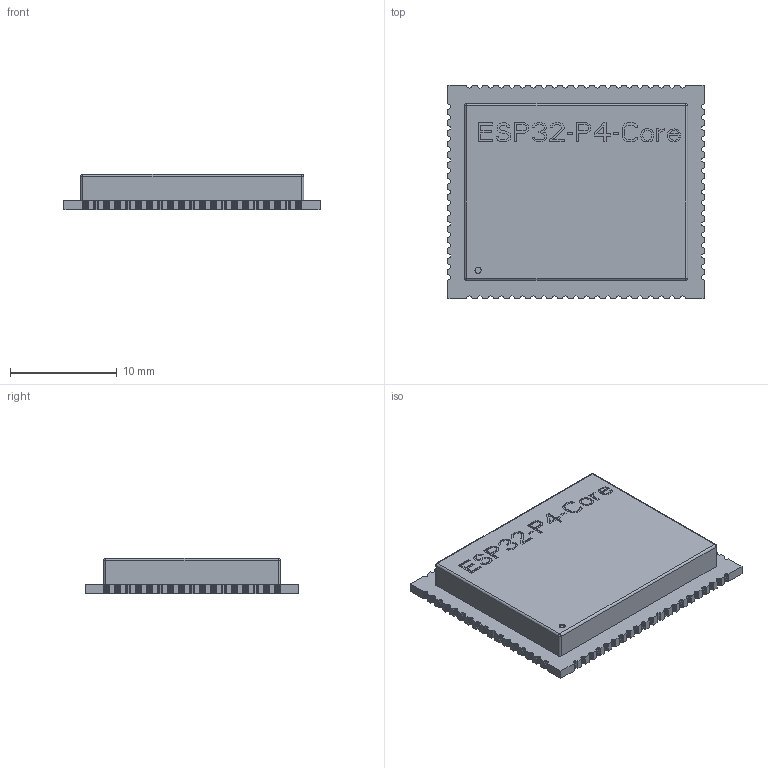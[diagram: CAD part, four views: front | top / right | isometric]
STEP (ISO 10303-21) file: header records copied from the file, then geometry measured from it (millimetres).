
FILE_DESCRIPTION((''),'2;1');
FILE_NAME('ESP32-P4-CORE_ASM','2026-11-02T16:49:19',('xiaojisheng'),(''),'CREO PARAMETRIC BY PTC INC, 2021063','CREO PARAMETRIC BY PTC INC, 2021063','');
FILE_SCHEMA(('CONFIG_CONTROL_DESIGN','SHAPE_APPEARANCE_LAYERS_GROUPS'));
Products named in the file (84): BOARD; EXTRUDED-53972; 899454432_ASM; Y2_ASM; EXTRUDED-54367; 739255696_ASM; Y1_ASM; EXTRUDED-54762; 1838497840_ASM; U8_ASM; EXTRUDED-55181; 572976784_ASM; EXTRUDED-55578; 1868644112_ASM; U7_ASM; USER_LIBRARY-RES_0603-0201_1; USER_LIBRARY-RES_0603-0201_2; USER_LIBRARY-RES_0603-0201_3; USER_LIBRARY-RES_0603-0201_4; USER_LIBRARY-RES_0603-0201_ASM; R46_ASM; R45_ASM; R43_ASM; R42_ASM; R35_ASM; R32_ASM; R31_ASM; R1_ASM; EXTRUDED-64287; 572976400_ASM; L2_ASM; USER_LIBRARY-0201_0603M__CAP_1; USER_LIBRARY-0201_0603M__CAP_2; USER_LIBRARY-0201_0603M__CAP_3; USER_LIBRARY-0201_0603M__CAP_ASM; C64_ASM; _1_10001; 3_1_A; 2_100; C_0402-672_AF0_ASM_ASM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
Assembly tree (133 placements, depth 7):
  ESP32-P4-CORE_ASM
    PCB_ASM
      BOARD
      Y2_ASM
        899454432_ASM
          EXTRUDED-53972
      Y1_ASM
        739255696_ASM
          EXTRUDED-54367
      U8_ASM
        1838497840_ASM
          EXTRUDED-54762
      U7_ASM
        572976784_ASM  x6
          EXTRUDED-55181
        1868644112_ASM
          EXTRUDED-55578
      R46_ASM
        USER_LIBRARY-RES_0603-0201_ASM
          USER_LIBRARY-RES_0603-0201_1
          USER_LIBRARY-RES_0603-0201_2
          USER_LIBRARY-RES_0603-0201_3
          USER_LIBRARY-RES_0603-0201_4
      R45_ASM
        USER_LIBRARY-RES_0603-0201_ASM
          USER_LIBRARY-RES_0603-0201_1
          USER_LIBRARY-RES_0603-0201_2
          USER_LIBRARY-RES_0603-0201_3
          USER_LIBRARY-RES_0603-0201_4
      R43_ASM
        USER_LIBRARY-RES_0603-0201_ASM
          USER_LIBRARY-RES_0603-0201_1
          USER_LIBRARY-RES_0603-0201_2
          USER_LIBRARY-RES_0603-0201_3
          USER_LIBRARY-RES_0603-0201_4
      R42_ASM
        USER_LIBRARY-RES_0603-0201_ASM
          USER_LIBRARY-RES_0603-0201_1
          USER_LIBRARY-RES_0603-0201_2
          USER_LIBRARY-RES_0603-0201_3
          USER_LIBRARY-RES_0603-0201_4
      R35_ASM
        USER_LIBRARY-RES_0603-0201_ASM
          USER_LIBRARY-RES_0603-0201_1
          USER_LIBRARY-RES_0603-0201_2
          USER_LIBRARY-RES_0603-0201_3
          USER_LIBRARY-RES_0603-0201_4
      R32_ASM
        USER_LIBRARY-RES_0603-0201_ASM
          USER_LIBRARY-RES_0603-0201_1
          USER_LIBRARY-RES_0603-0201_2
          USER_LIBRARY-RES_0603-0201_3
          USER_LIBRARY-RES_0603-0201_4
      R31_ASM
        USER_LIBRARY-RES_0603-0201_ASM
          USER_LIBRARY-RES_0603-0201_1
          USER_LIBRARY-RES_0603-0201_2
          USER_LIBRARY-RES_0603-0201_3
          USER_LIBRARY-RES_0603-0201_4
      R1_ASM
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Bounding box: 24 x 20 x 3.3 mm (x, y, z)
Volume: 714.3 mm3; surface area: 2495.3 mm2
Topology: 165 solids, 165 shells, 9607 faces, 25178 edges, 16248 vertices
Faces by surface type: plane 6051, extrusion 2342, cylinder 890, sphere 324
Entity records: 75464 total; most frequent: CARTESIAN_POINT 15141, ORIENTED_EDGE 9798, DIRECTION 8782, EDGE_CURVE 4899, VECTOR 4632, LINE 4481, PRESENTATION_STYLE_ASSIGNMENT 4061, STYLED_ITEM 3844
